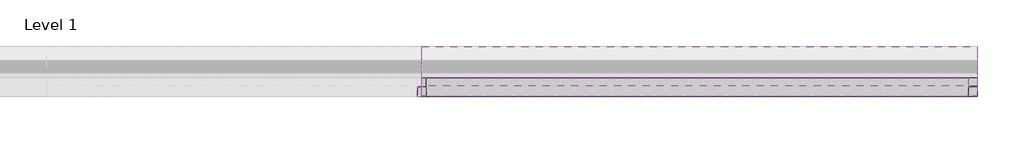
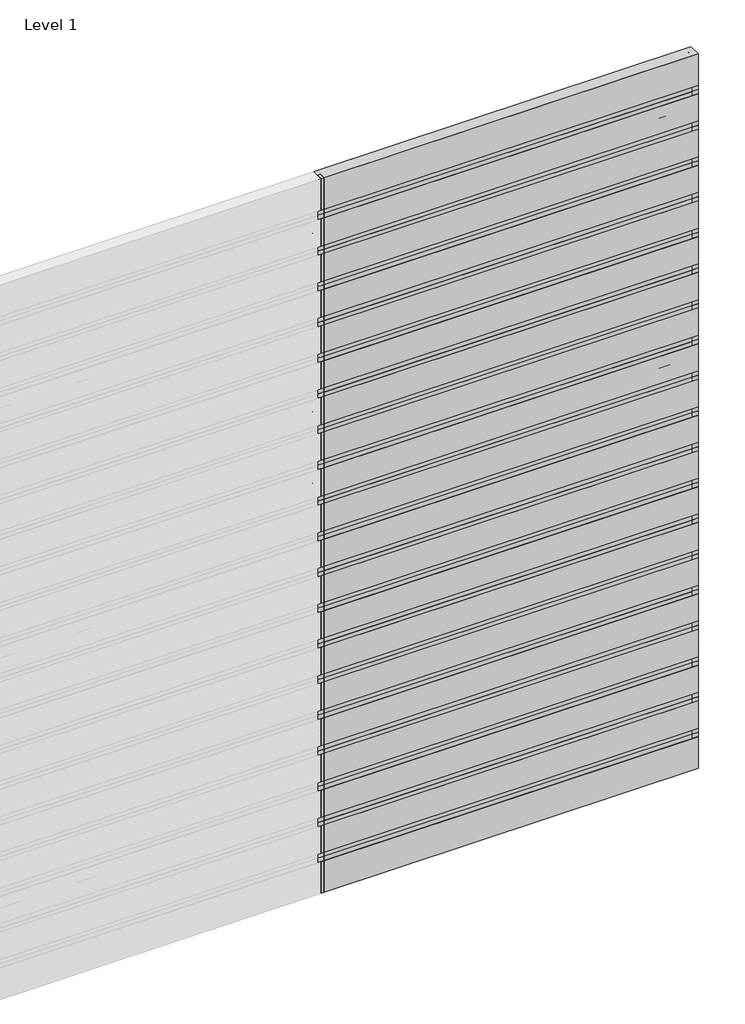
# One storey, part 2 of 2: 49 members, 40 plates.
"""IFC4 building model written with IfcOpenShell, lengths in millimetres."""

from ifc_helpers import new_model, si_unit, origin, place, context, project, spatial, transform, mapped, element, save
from components import rectangular_mullion_58689f85, rectangular_mullion_906318ec, rectangular_mullion_d9db7a7c, empty_system_panel_empty_bd2bff59, empty_system_panel_empty_0d5e6a9c, empty_system_panel_empty_080f249c

model = new_model("IFC4")

# Units and contexts
model_context = context("Model", 3, world=origin())
ifc_project = project(units=[si_unit("LENGTHUNIT", "METRE", prefix="MILLI")], contexts=[model_context])

# Site, building, storey
site = spatial("IfcSite", under=ifc_project)
building = spatial("IfcBuilding", under=site)
storey = spatial("IfcBuildingStorey", under=building, Name="Level 1", Elevation=0.0)

# Members
placement = place(None, origin())
rectangular_mullion_shape = rectangular_mullion_58689f85(model_context)
element("IfcMember", 1, ObjectType="Rectangular Mullion : RSen_21_CWM_blade - 300 ellips - 45°_gen_duco projects", at=placement, inside=storey, context=model_context, shape_type="MappedRepresentation", body=[
    mapped(rectangular_mullion_shape, transform((3000.0, 3000.0, 3300.0), x_axis=(0.0, 0.0, 1.0), y_axis=(0.0, 1.0, 0.0), z_axis=(-1.0, 0.0, 0.0))),
])
element("IfcMember", 2, ObjectType="Rectangular Mullion : RSen_21_CWM_blade - 300 ellips - 45°_gen_duco projects", at=placement, inside=storey, context=model_context, shape_type="MappedRepresentation", body=[
    mapped(rectangular_mullion_shape, transform((3000.0, 3000.0, 3600.0), x_axis=(0.0, 0.0, 1.0), y_axis=(0.0, 1.0, 0.0), z_axis=(-1.0, 0.0, 0.0))),
])
element("IfcMember", 3, ObjectType="Rectangular Mullion : RSen_21_CWM_blade - 300 ellips - 45°_gen_duco projects", at=placement, inside=storey, context=model_context, shape_type="MappedRepresentation", body=[
    mapped(rectangular_mullion_shape, transform((3000.0, 3000.0, 3900.0), x_axis=(0.0, 0.0, 1.0), y_axis=(0.0, 1.0, 0.0), z_axis=(-1.0, 0.0, 0.0))),
])
element("IfcMember", 4, ObjectType="Rectangular Mullion : RSen_21_CWM_blade - 300 ellips - 45°_gen_duco projects", at=placement, inside=storey, context=model_context, shape_type="MappedRepresentation", body=[
    mapped(rectangular_mullion_shape, transform((3000.0, 3000.0, 4200.0), x_axis=(0.0, 0.0, 1.0), y_axis=(0.0, 1.0, 0.0), z_axis=(-1.0, 0.0, 0.0))),
])
element("IfcMember", 5, ObjectType="Rectangular Mullion : RSen_21_CWM_blade - 300 ellips - 45°_gen_duco projects", at=placement, inside=storey, context=model_context, shape_type="MappedRepresentation", body=[
    mapped(rectangular_mullion_shape, transform((3000.0, 3000.0, 4500.0), x_axis=(0.0, 0.0, 1.0), y_axis=(0.0, 1.0, 0.0), z_axis=(-1.0, 0.0, 0.0))),
])
element("IfcMember", 6, ObjectType="Rectangular Mullion : RSen_21_CWM_blade - 300 ellips - 45°_gen_duco projects", at=placement, inside=storey, context=model_context, shape_type="MappedRepresentation", body=[
    mapped(rectangular_mullion_shape, transform((3000.0, 3000.0, 4800.0), x_axis=(0.0, 0.0, 1.0), y_axis=(0.0, 1.0, 0.0), z_axis=(-1.0, 0.0, 0.0))),
])
element("IfcMember", 7, ObjectType="Rectangular Mullion : RSen_21_CWM_blade - 300 ellips - 45°_gen_duco projects", at=placement, inside=storey, context=model_context, shape_type="MappedRepresentation", body=[
    mapped(rectangular_mullion_shape, transform((3000.0, 3000.0, 5100.0), x_axis=(0.0, 0.0, 1.0), y_axis=(0.0, 1.0, 0.0), z_axis=(-1.0, 0.0, 0.0))),
])
element("IfcMember", 8, ObjectType="Rectangular Mullion : RSen_21_CWM_blade - 300 ellips - 45°_gen_duco projects", at=placement, inside=storey, context=model_context, shape_type="MappedRepresentation", body=[
    mapped(rectangular_mullion_shape, transform((3000.0, 3000.0, 5400.0), x_axis=(0.0, 0.0, 1.0), y_axis=(0.0, 1.0, 0.0), z_axis=(-1.0, 0.0, 0.0))),
])
element("IfcMember", 9, ObjectType="Rectangular Mullion : RSen_21_CWM_blade - 300 ellips - 45°_gen_duco projects", at=placement, inside=storey, context=model_context, shape_type="MappedRepresentation", body=[
    mapped(rectangular_mullion_shape, transform((3000.0, 3000.0, 5700.0), x_axis=(0.0, 0.0, 1.0), y_axis=(0.0, 1.0, 0.0), z_axis=(-1.0, 0.0, 0.0))),
])
rectangular_mullion_2_shape = rectangular_mullion_906318ec(model_context)
element("IfcMember", 10, ObjectType="Rectangular Mullion : RSen_21_CWM_support profile 50x50_gen_duco projects", at=placement, inside=storey, context=model_context, shape_type="MappedRepresentation", body=[
    mapped(rectangular_mullion_2_shape, transform((3000.0, 3000.0, 0.0), x_axis=(-1.0, 0.0, 0.0), y_axis=(0.0, 1.0, 0.0), z_axis=(0.0, 0.0, -1.0))),
])
element("IfcMember", 11, ObjectType="Rectangular Mullion : RSen_21_CWM_support profile 50x50_gen_duco projects", at=placement, inside=storey, context=model_context, shape_type="MappedRepresentation", body=[
    mapped(rectangular_mullion_2_shape, transform((3000.0, 3000.0, 300.0), x_axis=(-1.0, 0.0, 0.0), y_axis=(0.0, 1.0, 0.0), z_axis=(0.0, 0.0, -1.0))),
])
element("IfcMember", 12, ObjectType="Rectangular Mullion : RSen_21_CWM_support profile 50x50_gen_duco projects", at=placement, inside=storey, context=model_context, shape_type="MappedRepresentation", body=[
    mapped(rectangular_mullion_2_shape, transform((3000.0, 3000.0, 600.0), x_axis=(-1.0, 0.0, 0.0), y_axis=(0.0, 1.0, 0.0), z_axis=(0.0, 0.0, -1.0))),
])
element("IfcMember", 13, ObjectType="Rectangular Mullion : RSen_21_CWM_support profile 50x50_gen_duco projects", at=placement, inside=storey, context=model_context, shape_type="MappedRepresentation", body=[
    mapped(rectangular_mullion_2_shape, transform((3000.0, 3000.0, 900.0), x_axis=(-1.0, 0.0, 0.0), y_axis=(0.0, 1.0, 0.0), z_axis=(0.0, 0.0, -1.0))),
])
element("IfcMember", 14, ObjectType="Rectangular Mullion : RSen_21_CWM_support profile 50x50_gen_duco projects", at=placement, inside=storey, context=model_context, shape_type="MappedRepresentation", body=[
    mapped(rectangular_mullion_2_shape, transform((3000.0, 3000.0, 1200.0), x_axis=(-1.0, 0.0, 0.0), y_axis=(0.0, 1.0, 0.0), z_axis=(0.0, 0.0, -1.0))),
])
element("IfcMember", 15, ObjectType="Rectangular Mullion : RSen_21_CWM_support profile 50x50_gen_duco projects", at=placement, inside=storey, context=model_context, shape_type="MappedRepresentation", body=[
    mapped(rectangular_mullion_2_shape, transform((3000.0, 3000.0, 1500.0), x_axis=(-1.0, 0.0, 0.0), y_axis=(0.0, 1.0, 0.0), z_axis=(0.0, 0.0, -1.0))),
])
element("IfcMember", 16, ObjectType="Rectangular Mullion : RSen_21_CWM_support profile 50x50_gen_duco projects", at=placement, inside=storey, context=model_context, shape_type="MappedRepresentation", body=[
    mapped(rectangular_mullion_2_shape, transform((3000.0, 3000.0, 1800.0), x_axis=(-1.0, 0.0, 0.0), y_axis=(0.0, 1.0, 0.0), z_axis=(0.0, 0.0, -1.0))),
])
element("IfcMember", 17, ObjectType="Rectangular Mullion : RSen_21_CWM_support profile 50x50_gen_duco projects", at=placement, inside=storey, context=model_context, shape_type="MappedRepresentation", body=[
    mapped(rectangular_mullion_2_shape, transform((3000.0, 3000.0, 2100.0), x_axis=(-1.0, 0.0, 0.0), y_axis=(0.0, 1.0, 0.0), z_axis=(0.0, 0.0, -1.0))),
])
element("IfcMember", 18, ObjectType="Rectangular Mullion : RSen_21_CWM_support profile 50x50_gen_duco projects", at=placement, inside=storey, context=model_context, shape_type="MappedRepresentation", body=[
    mapped(rectangular_mullion_2_shape, transform((3000.0, 3000.0, 2400.0), x_axis=(-1.0, 0.0, 0.0), y_axis=(0.0, 1.0, 0.0), z_axis=(0.0, 0.0, -1.0))),
])
element("IfcMember", 19, ObjectType="Rectangular Mullion : RSen_21_CWM_support profile 50x50_gen_duco projects", at=placement, inside=storey, context=model_context, shape_type="MappedRepresentation", body=[
    mapped(rectangular_mullion_2_shape, transform((3000.0, 3000.0, 2700.0), x_axis=(-1.0, 0.0, 0.0), y_axis=(0.0, 1.0, 0.0), z_axis=(0.0, 0.0, -1.0))),
])
element("IfcMember", 20, ObjectType="Rectangular Mullion : RSen_21_CWM_support profile 50x50_gen_duco projects", at=placement, inside=storey, context=model_context, shape_type="MappedRepresentation", body=[
    mapped(rectangular_mullion_2_shape, transform((3000.0, 3000.0, 3000.0), x_axis=(-1.0, 0.0, 0.0), y_axis=(0.0, 1.0, 0.0), z_axis=(0.0, 0.0, -1.0))),
])
element("IfcMember", 21, ObjectType="Rectangular Mullion : RSen_21_CWM_support profile 50x50_gen_duco projects", at=placement, inside=storey, context=model_context, shape_type="MappedRepresentation", body=[
    mapped(rectangular_mullion_2_shape, transform((3000.0, 3000.0, 3300.0), x_axis=(-1.0, 0.0, 0.0), y_axis=(0.0, 1.0, 0.0), z_axis=(0.0, 0.0, -1.0))),
])
element("IfcMember", 22, ObjectType="Rectangular Mullion : RSen_21_CWM_support profile 50x50_gen_duco projects", at=placement, inside=storey, context=model_context, shape_type="MappedRepresentation", body=[
    mapped(rectangular_mullion_2_shape, transform((3000.0, 3000.0, 3600.0), x_axis=(-1.0, 0.0, 0.0), y_axis=(0.0, 1.0, 0.0), z_axis=(0.0, 0.0, -1.0))),
])
element("IfcMember", 23, ObjectType="Rectangular Mullion : RSen_21_CWM_support profile 50x50_gen_duco projects", at=placement, inside=storey, context=model_context, shape_type="MappedRepresentation", body=[
    mapped(rectangular_mullion_2_shape, transform((3000.0, 3000.0, 3900.0), x_axis=(-1.0, 0.0, 0.0), y_axis=(0.0, 1.0, 0.0), z_axis=(0.0, 0.0, -1.0))),
])
element("IfcMember", 24, ObjectType="Rectangular Mullion : RSen_21_CWM_support profile 50x50_gen_duco projects", at=placement, inside=storey, context=model_context, shape_type="MappedRepresentation", body=[
    mapped(rectangular_mullion_2_shape, transform((3000.0, 3000.0, 4200.0), x_axis=(-1.0, 0.0, 0.0), y_axis=(0.0, 1.0, 0.0), z_axis=(0.0, 0.0, -1.0))),
])
element("IfcMember", 25, ObjectType="Rectangular Mullion : RSen_21_CWM_support profile 50x50_gen_duco projects", at=placement, inside=storey, context=model_context, shape_type="MappedRepresentation", body=[
    mapped(rectangular_mullion_2_shape, transform((3000.0, 3000.0, 4500.0), x_axis=(-1.0, 0.0, 0.0), y_axis=(0.0, 1.0, 0.0), z_axis=(0.0, 0.0, -1.0))),
])
element("IfcMember", 26, ObjectType="Rectangular Mullion : RSen_21_CWM_support profile 50x50_gen_duco projects", at=placement, inside=storey, context=model_context, shape_type="MappedRepresentation", body=[
    mapped(rectangular_mullion_2_shape, transform((3000.0, 3000.0, 4800.0), x_axis=(-1.0, 0.0, 0.0), y_axis=(0.0, 1.0, 0.0), z_axis=(0.0, 0.0, -1.0))),
])
element("IfcMember", 27, ObjectType="Rectangular Mullion : RSen_21_CWM_support profile 50x50_gen_duco projects", at=placement, inside=storey, context=model_context, shape_type="MappedRepresentation", body=[
    mapped(rectangular_mullion_2_shape, transform((3000.0, 3000.0, 5100.0), x_axis=(-1.0, 0.0, 0.0), y_axis=(0.0, 1.0, 0.0), z_axis=(0.0, 0.0, -1.0))),
])
element("IfcMember", 28, ObjectType="Rectangular Mullion : RSen_21_CWM_support profile 50x50_gen_duco projects", at=placement, inside=storey, context=model_context, shape_type="MappedRepresentation", body=[
    mapped(rectangular_mullion_2_shape, transform((3000.0, 3000.0, 5400.0), x_axis=(-1.0, 0.0, 0.0), y_axis=(0.0, 1.0, 0.0), z_axis=(0.0, 0.0, -1.0))),
])
element("IfcMember", 29, ObjectType="Rectangular Mullion : RSen_21_CWM_support profile 50x50_gen_duco projects", at=placement, inside=storey, context=model_context, shape_type="MappedRepresentation", body=[
    mapped(rectangular_mullion_2_shape, transform((3000.0, 3000.0, 5700.0), x_axis=(-1.0, 0.0, 0.0), y_axis=(0.0, 1.0, 0.0), z_axis=(0.0, 0.0, -1.0))),
])
rectangular_mullion_3_shape = rectangular_mullion_d9db7a7c(model_context)
element("IfcMember", 30, ObjectType="Rectangular Mullion : RSen_21_CWM_support profile 50x50 - right_gen_duco projects", at=placement, inside=storey, context=model_context, shape_type="MappedRepresentation", body=[
    mapped(rectangular_mullion_3_shape, transform((6000.0, 3000.0, 6000.0), x_axis=(1.0, 0.0, 0.0), y_axis=(0.0, 1.0, 0.0), z_axis=(0.0, 0.0, 1.0))),
])
element("IfcMember", 31, ObjectType="Rectangular Mullion : RSen_21_CWM_support profile 50x50 - right_gen_duco projects", at=placement, inside=storey, context=model_context, shape_type="MappedRepresentation", body=[
    mapped(rectangular_mullion_3_shape, transform((6000.0, 3000.0, 300.0), x_axis=(1.0, 0.0, 0.0), y_axis=(0.0, 1.0, 0.0), z_axis=(0.0, 0.0, 1.0))),
])
element("IfcMember", 32, ObjectType="Rectangular Mullion : RSen_21_CWM_support profile 50x50 - right_gen_duco projects", at=placement, inside=storey, context=model_context, shape_type="MappedRepresentation", body=[
    mapped(rectangular_mullion_3_shape, transform((6000.0, 3000.0, 600.0), x_axis=(1.0, 0.0, 0.0), y_axis=(0.0, 1.0, 0.0), z_axis=(0.0, 0.0, 1.0))),
])
element("IfcMember", 33, ObjectType="Rectangular Mullion : RSen_21_CWM_support profile 50x50 - right_gen_duco projects", at=placement, inside=storey, context=model_context, shape_type="MappedRepresentation", body=[
    mapped(rectangular_mullion_3_shape, transform((6000.0, 3000.0, 900.0), x_axis=(1.0, 0.0, 0.0), y_axis=(0.0, 1.0, 0.0), z_axis=(0.0, 0.0, 1.0))),
])
element("IfcMember", 34, ObjectType="Rectangular Mullion : RSen_21_CWM_support profile 50x50 - right_gen_duco projects", at=placement, inside=storey, context=model_context, shape_type="MappedRepresentation", body=[
    mapped(rectangular_mullion_3_shape, transform((6000.0, 3000.0, 1200.0), x_axis=(1.0, 0.0, 0.0), y_axis=(0.0, 1.0, 0.0), z_axis=(0.0, 0.0, 1.0))),
])
element("IfcMember", 35, ObjectType="Rectangular Mullion : RSen_21_CWM_support profile 50x50 - right_gen_duco projects", at=placement, inside=storey, context=model_context, shape_type="MappedRepresentation", body=[
    mapped(rectangular_mullion_3_shape, transform((6000.0, 3000.0, 1500.0), x_axis=(1.0, 0.0, 0.0), y_axis=(0.0, 1.0, 0.0), z_axis=(0.0, 0.0, 1.0))),
])
element("IfcMember", 36, ObjectType="Rectangular Mullion : RSen_21_CWM_support profile 50x50 - right_gen_duco projects", at=placement, inside=storey, context=model_context, shape_type="MappedRepresentation", body=[
    mapped(rectangular_mullion_3_shape, transform((6000.0, 3000.0, 1800.0), x_axis=(1.0, 0.0, 0.0), y_axis=(0.0, 1.0, 0.0), z_axis=(0.0, 0.0, 1.0))),
])
element("IfcMember", 37, ObjectType="Rectangular Mullion : RSen_21_CWM_support profile 50x50 - right_gen_duco projects", at=placement, inside=storey, context=model_context, shape_type="MappedRepresentation", body=[
    mapped(rectangular_mullion_3_shape, transform((6000.0, 3000.0, 2100.0), x_axis=(1.0, 0.0, 0.0), y_axis=(0.0, 1.0, 0.0), z_axis=(0.0, 0.0, 1.0))),
])
element("IfcMember", 38, ObjectType="Rectangular Mullion : RSen_21_CWM_support profile 50x50 - right_gen_duco projects", at=placement, inside=storey, context=model_context, shape_type="MappedRepresentation", body=[
    mapped(rectangular_mullion_3_shape, transform((6000.0, 3000.0, 2400.0), x_axis=(1.0, 0.0, 0.0), y_axis=(0.0, 1.0, 0.0), z_axis=(0.0, 0.0, 1.0))),
])
element("IfcMember", 39, ObjectType="Rectangular Mullion : RSen_21_CWM_support profile 50x50 - right_gen_duco projects", at=placement, inside=storey, context=model_context, shape_type="MappedRepresentation", body=[
    mapped(rectangular_mullion_3_shape, transform((6000.0, 3000.0, 2700.0), x_axis=(1.0, 0.0, 0.0), y_axis=(0.0, 1.0, 0.0), z_axis=(0.0, 0.0, 1.0))),
])
element("IfcMember", 40, ObjectType="Rectangular Mullion : RSen_21_CWM_support profile 50x50 - right_gen_duco projects", at=placement, inside=storey, context=model_context, shape_type="MappedRepresentation", body=[
    mapped(rectangular_mullion_3_shape, transform((6000.0, 3000.0, 3000.0), x_axis=(1.0, 0.0, 0.0), y_axis=(0.0, 1.0, 0.0), z_axis=(0.0, 0.0, 1.0))),
])
element("IfcMember", 41, ObjectType="Rectangular Mullion : RSen_21_CWM_support profile 50x50 - right_gen_duco projects", at=placement, inside=storey, context=model_context, shape_type="MappedRepresentation", body=[
    mapped(rectangular_mullion_3_shape, transform((6000.0, 3000.0, 3300.0), x_axis=(1.0, 0.0, 0.0), y_axis=(0.0, 1.0, 0.0), z_axis=(0.0, 0.0, 1.0))),
])
element("IfcMember", 42, ObjectType="Rectangular Mullion : RSen_21_CWM_support profile 50x50 - right_gen_duco projects", at=placement, inside=storey, context=model_context, shape_type="MappedRepresentation", body=[
    mapped(rectangular_mullion_3_shape, transform((6000.0, 3000.0, 3600.0), x_axis=(1.0, 0.0, 0.0), y_axis=(0.0, 1.0, 0.0), z_axis=(0.0, 0.0, 1.0))),
])
element("IfcMember", 43, ObjectType="Rectangular Mullion : RSen_21_CWM_support profile 50x50 - right_gen_duco projects", at=placement, inside=storey, context=model_context, shape_type="MappedRepresentation", body=[
    mapped(rectangular_mullion_3_shape, transform((6000.0, 3000.0, 3900.0), x_axis=(1.0, 0.0, 0.0), y_axis=(0.0, 1.0, 0.0), z_axis=(0.0, 0.0, 1.0))),
])
element("IfcMember", 44, ObjectType="Rectangular Mullion : RSen_21_CWM_support profile 50x50 - right_gen_duco projects", at=placement, inside=storey, context=model_context, shape_type="MappedRepresentation", body=[
    mapped(rectangular_mullion_3_shape, transform((6000.0, 3000.0, 4200.0), x_axis=(1.0, 0.0, 0.0), y_axis=(0.0, 1.0, 0.0), z_axis=(0.0, 0.0, 1.0))),
])
element("IfcMember", 45, ObjectType="Rectangular Mullion : RSen_21_CWM_support profile 50x50 - right_gen_duco projects", at=placement, inside=storey, context=model_context, shape_type="MappedRepresentation", body=[
    mapped(rectangular_mullion_3_shape, transform((6000.0, 3000.0, 4500.0), x_axis=(1.0, 0.0, 0.0), y_axis=(0.0, 1.0, 0.0), z_axis=(0.0, 0.0, 1.0))),
])
element("IfcMember", 46, ObjectType="Rectangular Mullion : RSen_21_CWM_support profile 50x50 - right_gen_duco projects", at=placement, inside=storey, context=model_context, shape_type="MappedRepresentation", body=[
    mapped(rectangular_mullion_3_shape, transform((6000.0, 3000.0, 4800.0), x_axis=(1.0, 0.0, 0.0), y_axis=(0.0, 1.0, 0.0), z_axis=(0.0, 0.0, 1.0))),
])
element("IfcMember", 47, ObjectType="Rectangular Mullion : RSen_21_CWM_support profile 50x50 - right_gen_duco projects", at=placement, inside=storey, context=model_context, shape_type="MappedRepresentation", body=[
    mapped(rectangular_mullion_3_shape, transform((6000.0, 3000.0, 5100.0), x_axis=(1.0, 0.0, 0.0), y_axis=(0.0, 1.0, 0.0), z_axis=(0.0, 0.0, 1.0))),
])
element("IfcMember", 48, ObjectType="Rectangular Mullion : RSen_21_CWM_support profile 50x50 - right_gen_duco projects", at=placement, inside=storey, context=model_context, shape_type="MappedRepresentation", body=[
    mapped(rectangular_mullion_3_shape, transform((6000.0, 3000.0, 5400.0), x_axis=(1.0, 0.0, 0.0), y_axis=(0.0, 1.0, 0.0), z_axis=(0.0, 0.0, 1.0))),
])
element("IfcMember", 49, ObjectType="Rectangular Mullion : RSen_21_CWM_support profile 50x50 - right_gen_duco projects", at=placement, inside=storey, context=model_context, shape_type="MappedRepresentation", body=[
    mapped(rectangular_mullion_3_shape, transform((6000.0, 3000.0, 5700.0), x_axis=(1.0, 0.0, 0.0), y_axis=(0.0, 1.0, 0.0), z_axis=(0.0, 0.0, 1.0))),
])

# Plates
empty_system_panel_empty_shape = empty_system_panel_empty_bd2bff59(model_context)
element("IfcPlate", 50, ObjectType="Empty System Panel : Empty", at=placement, inside=storey, context=model_context, shape_type="MappedRepresentation", body=[
    mapped(empty_system_panel_empty_shape, transform((4500.0, 3000.0, 0.0), x_axis=(-1.0, 0.0, 0.0), y_axis=(0.0, -1.0, 0.0), z_axis=(0.0, 0.0, 1.0))),
])
element("IfcPlate", 51, ObjectType="Empty System Panel : Empty", at=placement, inside=storey, context=model_context, shape_type="MappedRepresentation", body=[
    mapped(empty_system_panel_empty_shape, transform((4500.0, 3000.0, 5735.3553391), x_axis=(-1.0, 0.0, 0.0), y_axis=(0.0, -1.0, 0.0), z_axis=(0.0, 0.0, 1.0))),
])
empty_system_panel_empty_2_shape = empty_system_panel_empty_0d5e6a9c(model_context)
element("IfcPlate", 52, ObjectType="Empty System Panel : Empty", at=placement, inside=storey, context=model_context, shape_type="MappedRepresentation", body=[
    mapped(empty_system_panel_empty_2_shape, transform((4500.0, 3000.0, 335.3553391), x_axis=(-1.0, 0.0, 0.0), y_axis=(0.0, -1.0, 0.0), z_axis=(0.0, 0.0, 1.0))),
])
element("IfcPlate", 53, ObjectType="Empty System Panel : Empty", at=placement, inside=storey, context=model_context, shape_type="MappedRepresentation", body=[
    mapped(empty_system_panel_empty_2_shape, transform((4500.0, 3000.0, 635.3553391), x_axis=(-1.0, 0.0, 0.0), y_axis=(0.0, -1.0, 0.0), z_axis=(0.0, 0.0, 1.0))),
])
element("IfcPlate", 54, ObjectType="Empty System Panel : Empty", at=placement, inside=storey, context=model_context, shape_type="MappedRepresentation", body=[
    mapped(empty_system_panel_empty_2_shape, transform((4500.0, 3000.0, 935.3553391), x_axis=(-1.0, 0.0, 0.0), y_axis=(0.0, -1.0, 0.0), z_axis=(0.0, 0.0, 1.0))),
])
element("IfcPlate", 55, ObjectType="Empty System Panel : Empty", at=placement, inside=storey, context=model_context, shape_type="MappedRepresentation", body=[
    mapped(empty_system_panel_empty_2_shape, transform((4500.0, 3000.0, 1235.3553391), x_axis=(-1.0, 0.0, 0.0), y_axis=(0.0, -1.0, 0.0), z_axis=(0.0, 0.0, 1.0))),
])
element("IfcPlate", 56, ObjectType="Empty System Panel : Empty", at=placement, inside=storey, context=model_context, shape_type="MappedRepresentation", body=[
    mapped(empty_system_panel_empty_2_shape, transform((4500.0, 3000.0, 1535.3553391), x_axis=(-1.0, 0.0, 0.0), y_axis=(0.0, -1.0, 0.0), z_axis=(0.0, 0.0, 1.0))),
])
element("IfcPlate", 57, ObjectType="Empty System Panel : Empty", at=placement, inside=storey, context=model_context, shape_type="MappedRepresentation", body=[
    mapped(empty_system_panel_empty_2_shape, transform((4500.0, 3000.0, 1835.3553391), x_axis=(-1.0, 0.0, 0.0), y_axis=(0.0, -1.0, 0.0), z_axis=(0.0, 0.0, 1.0))),
])
element("IfcPlate", 58, ObjectType="Empty System Panel : Empty", at=placement, inside=storey, context=model_context, shape_type="MappedRepresentation", body=[
    mapped(empty_system_panel_empty_2_shape, transform((4500.0, 3000.0, 2135.3553391), x_axis=(-1.0, 0.0, 0.0), y_axis=(0.0, -1.0, 0.0), z_axis=(0.0, 0.0, 1.0))),
])
element("IfcPlate", 59, ObjectType="Empty System Panel : Empty", at=placement, inside=storey, context=model_context, shape_type="MappedRepresentation", body=[
    mapped(empty_system_panel_empty_2_shape, transform((4500.0, 3000.0, 2435.3553391), x_axis=(-1.0, 0.0, 0.0), y_axis=(0.0, -1.0, 0.0), z_axis=(0.0, 0.0, 1.0))),
])
element("IfcPlate", 60, ObjectType="Empty System Panel : Empty", at=placement, inside=storey, context=model_context, shape_type="MappedRepresentation", body=[
    mapped(empty_system_panel_empty_2_shape, transform((4500.0, 3000.0, 2735.3553391), x_axis=(-1.0, 0.0, 0.0), y_axis=(0.0, -1.0, 0.0), z_axis=(0.0, 0.0, 1.0))),
])
element("IfcPlate", 61, ObjectType="Empty System Panel : Empty", at=placement, inside=storey, context=model_context, shape_type="MappedRepresentation", body=[
    mapped(empty_system_panel_empty_2_shape, transform((4500.0, 3000.0, 3035.3553391), x_axis=(-1.0, 0.0, 0.0), y_axis=(0.0, -1.0, 0.0), z_axis=(0.0, 0.0, 1.0))),
])
element("IfcPlate", 62, ObjectType="Empty System Panel : Empty", at=placement, inside=storey, context=model_context, shape_type="MappedRepresentation", body=[
    mapped(empty_system_panel_empty_2_shape, transform((4500.0, 3000.0, 3335.3553391), x_axis=(-1.0, 0.0, 0.0), y_axis=(0.0, -1.0, 0.0), z_axis=(0.0, 0.0, 1.0))),
])
element("IfcPlate", 63, ObjectType="Empty System Panel : Empty", at=placement, inside=storey, context=model_context, shape_type="MappedRepresentation", body=[
    mapped(empty_system_panel_empty_2_shape, transform((4500.0, 3000.0, 3635.3553391), x_axis=(-1.0, 0.0, 0.0), y_axis=(0.0, -1.0, 0.0), z_axis=(0.0, 0.0, 1.0))),
])
element("IfcPlate", 64, ObjectType="Empty System Panel : Empty", at=placement, inside=storey, context=model_context, shape_type="MappedRepresentation", body=[
    mapped(empty_system_panel_empty_2_shape, transform((4500.0, 3000.0, 3935.3553391), x_axis=(-1.0, 0.0, 0.0), y_axis=(0.0, -1.0, 0.0), z_axis=(0.0, 0.0, 1.0))),
])
element("IfcPlate", 65, ObjectType="Empty System Panel : Empty", at=placement, inside=storey, context=model_context, shape_type="MappedRepresentation", body=[
    mapped(empty_system_panel_empty_2_shape, transform((4500.0, 3000.0, 4235.3553391), x_axis=(-1.0, 0.0, 0.0), y_axis=(0.0, -1.0, 0.0), z_axis=(0.0, 0.0, 1.0))),
])
element("IfcPlate", 66, ObjectType="Empty System Panel : Empty", at=placement, inside=storey, context=model_context, shape_type="MappedRepresentation", body=[
    mapped(empty_system_panel_empty_2_shape, transform((4500.0, 3000.0, 4535.3553391), x_axis=(-1.0, 0.0, 0.0), y_axis=(0.0, -1.0, 0.0), z_axis=(0.0, 0.0, 1.0))),
])
element("IfcPlate", 67, ObjectType="Empty System Panel : Empty", at=placement, inside=storey, context=model_context, shape_type="MappedRepresentation", body=[
    mapped(empty_system_panel_empty_2_shape, transform((4500.0, 3000.0, 4835.3553391), x_axis=(-1.0, 0.0, 0.0), y_axis=(0.0, -1.0, 0.0), z_axis=(0.0, 0.0, 1.0))),
])
element("IfcPlate", 68, ObjectType="Empty System Panel : Empty", at=placement, inside=storey, context=model_context, shape_type="MappedRepresentation", body=[
    mapped(empty_system_panel_empty_2_shape, transform((4500.0, 3000.0, 5135.3553391), x_axis=(-1.0, 0.0, 0.0), y_axis=(0.0, -1.0, 0.0), z_axis=(0.0, 0.0, 1.0))),
])
element("IfcPlate", 69, ObjectType="Empty System Panel : Empty", at=placement, inside=storey, context=model_context, shape_type="MappedRepresentation", body=[
    mapped(empty_system_panel_empty_2_shape, transform((4500.0, 3000.0, 5435.3553391), x_axis=(-1.0, 0.0, 0.0), y_axis=(0.0, -1.0, 0.0), z_axis=(0.0, 0.0, 1.0))),
])
empty_system_panel_empty_3_shape = empty_system_panel_empty_080f249c(model_context)
element("IfcPlate", 70, ObjectType="Empty System Panel : Empty", at=placement, inside=storey, context=model_context, shape_type="MappedRepresentation", body=[
    mapped(empty_system_panel_empty_3_shape, transform((4487.5, 3000.0, 0.0), x_axis=(-1.0, 0.0, 0.0), y_axis=(0.0, -1.0, 0.0), z_axis=(0.0, 0.0, 1.0))),
])
element("IfcPlate", 71, ObjectType="Empty System Panel : Empty", at=placement, inside=storey, context=model_context, shape_type="MappedRepresentation", body=[
    mapped(empty_system_panel_empty_3_shape, transform((4487.5, 3000.0, 300.0), x_axis=(-1.0, 0.0, 0.0), y_axis=(0.0, -1.0, 0.0), z_axis=(0.0, 0.0, 1.0))),
])
element("IfcPlate", 72, ObjectType="Empty System Panel : Empty", at=placement, inside=storey, context=model_context, shape_type="MappedRepresentation", body=[
    mapped(empty_system_panel_empty_3_shape, transform((4487.5, 3000.0, 600.0), x_axis=(-1.0, 0.0, 0.0), y_axis=(0.0, -1.0, 0.0), z_axis=(0.0, 0.0, 1.0))),
])
element("IfcPlate", 73, ObjectType="Empty System Panel : Empty", at=placement, inside=storey, context=model_context, shape_type="MappedRepresentation", body=[
    mapped(empty_system_panel_empty_3_shape, transform((4487.5, 3000.0, 900.0), x_axis=(-1.0, 0.0, 0.0), y_axis=(0.0, -1.0, 0.0), z_axis=(0.0, 0.0, 1.0))),
])
element("IfcPlate", 74, ObjectType="Empty System Panel : Empty", at=placement, inside=storey, context=model_context, shape_type="MappedRepresentation", body=[
    mapped(empty_system_panel_empty_3_shape, transform((4487.5, 3000.0, 1200.0), x_axis=(-1.0, 0.0, 0.0), y_axis=(0.0, -1.0, 0.0), z_axis=(0.0, 0.0, 1.0))),
])
element("IfcPlate", 75, ObjectType="Empty System Panel : Empty", at=placement, inside=storey, context=model_context, shape_type="MappedRepresentation", body=[
    mapped(empty_system_panel_empty_3_shape, transform((4487.5, 3000.0, 1500.0), x_axis=(-1.0, 0.0, 0.0), y_axis=(0.0, -1.0, 0.0), z_axis=(0.0, 0.0, 1.0))),
])
element("IfcPlate", 76, ObjectType="Empty System Panel : Empty", at=placement, inside=storey, context=model_context, shape_type="MappedRepresentation", body=[
    mapped(empty_system_panel_empty_3_shape, transform((4487.5, 3000.0, 1800.0), x_axis=(-1.0, 0.0, 0.0), y_axis=(0.0, -1.0, 0.0), z_axis=(0.0, 0.0, 1.0))),
])
element("IfcPlate", 77, ObjectType="Empty System Panel : Empty", at=placement, inside=storey, context=model_context, shape_type="MappedRepresentation", body=[
    mapped(empty_system_panel_empty_3_shape, transform((4487.5, 3000.0, 2100.0), x_axis=(-1.0, 0.0, 0.0), y_axis=(0.0, -1.0, 0.0), z_axis=(0.0, 0.0, 1.0))),
])
element("IfcPlate", 78, ObjectType="Empty System Panel : Empty", at=placement, inside=storey, context=model_context, shape_type="MappedRepresentation", body=[
    mapped(empty_system_panel_empty_3_shape, transform((4487.5, 3000.0, 2400.0), x_axis=(-1.0, 0.0, 0.0), y_axis=(0.0, -1.0, 0.0), z_axis=(0.0, 0.0, 1.0))),
])
element("IfcPlate", 79, ObjectType="Empty System Panel : Empty", at=placement, inside=storey, context=model_context, shape_type="MappedRepresentation", body=[
    mapped(empty_system_panel_empty_3_shape, transform((4487.5, 3000.0, 2700.0), x_axis=(-1.0, 0.0, 0.0), y_axis=(0.0, -1.0, 0.0), z_axis=(0.0, 0.0, 1.0))),
])
element("IfcPlate", 80, ObjectType="Empty System Panel : Empty", at=placement, inside=storey, context=model_context, shape_type="MappedRepresentation", body=[
    mapped(empty_system_panel_empty_3_shape, transform((4487.5, 3000.0, 3000.0), x_axis=(-1.0, 0.0, 0.0), y_axis=(0.0, -1.0, 0.0), z_axis=(0.0, 0.0, 1.0))),
])
element("IfcPlate", 81, ObjectType="Empty System Panel : Empty", at=placement, inside=storey, context=model_context, shape_type="MappedRepresentation", body=[
    mapped(empty_system_panel_empty_3_shape, transform((4487.5, 3000.0, 3300.0), x_axis=(-1.0, 0.0, 0.0), y_axis=(0.0, -1.0, 0.0), z_axis=(0.0, 0.0, 1.0))),
])
element("IfcPlate", 82, ObjectType="Empty System Panel : Empty", at=placement, inside=storey, context=model_context, shape_type="MappedRepresentation", body=[
    mapped(empty_system_panel_empty_3_shape, transform((4487.5, 3000.0, 3600.0), x_axis=(-1.0, 0.0, 0.0), y_axis=(0.0, -1.0, 0.0), z_axis=(0.0, 0.0, 1.0))),
])
element("IfcPlate", 83, ObjectType="Empty System Panel : Empty", at=placement, inside=storey, context=model_context, shape_type="MappedRepresentation", body=[
    mapped(empty_system_panel_empty_3_shape, transform((4487.5, 3000.0, 3900.0), x_axis=(-1.0, 0.0, 0.0), y_axis=(0.0, -1.0, 0.0), z_axis=(0.0, 0.0, 1.0))),
])
element("IfcPlate", 84, ObjectType="Empty System Panel : Empty", at=placement, inside=storey, context=model_context, shape_type="MappedRepresentation", body=[
    mapped(empty_system_panel_empty_3_shape, transform((4487.5, 3000.0, 4200.0), x_axis=(-1.0, 0.0, 0.0), y_axis=(0.0, -1.0, 0.0), z_axis=(0.0, 0.0, 1.0))),
])
element("IfcPlate", 85, ObjectType="Empty System Panel : Empty", at=placement, inside=storey, context=model_context, shape_type="MappedRepresentation", body=[
    mapped(empty_system_panel_empty_3_shape, transform((4487.5, 3000.0, 4500.0), x_axis=(-1.0, 0.0, 0.0), y_axis=(0.0, -1.0, 0.0), z_axis=(0.0, 0.0, 1.0))),
])
element("IfcPlate", 86, ObjectType="Empty System Panel : Empty", at=placement, inside=storey, context=model_context, shape_type="MappedRepresentation", body=[
    mapped(empty_system_panel_empty_3_shape, transform((4487.5, 3000.0, 4800.0), x_axis=(-1.0, 0.0, 0.0), y_axis=(0.0, -1.0, 0.0), z_axis=(0.0, 0.0, 1.0))),
])
element("IfcPlate", 87, ObjectType="Empty System Panel : Empty", at=placement, inside=storey, context=model_context, shape_type="MappedRepresentation", body=[
    mapped(empty_system_panel_empty_3_shape, transform((4487.5, 3000.0, 5100.0), x_axis=(-1.0, 0.0, 0.0), y_axis=(0.0, -1.0, 0.0), z_axis=(0.0, 0.0, 1.0))),
])
element("IfcPlate", 88, ObjectType="Empty System Panel : Empty", at=placement, inside=storey, context=model_context, shape_type="MappedRepresentation", body=[
    mapped(empty_system_panel_empty_3_shape, transform((4487.5, 3000.0, 5400.0), x_axis=(-1.0, 0.0, 0.0), y_axis=(0.0, -1.0, 0.0), z_axis=(0.0, 0.0, 1.0))),
])
element("IfcPlate", 89, ObjectType="Empty System Panel : Empty", at=placement, inside=storey, context=model_context, shape_type="MappedRepresentation", body=[
    mapped(empty_system_panel_empty_3_shape, transform((4487.5, 3000.0, 5700.0), x_axis=(-1.0, 0.0, 0.0), y_axis=(0.0, -1.0, 0.0), z_axis=(0.0, 0.0, 1.0))),
])

save(model, "model.ifc")
